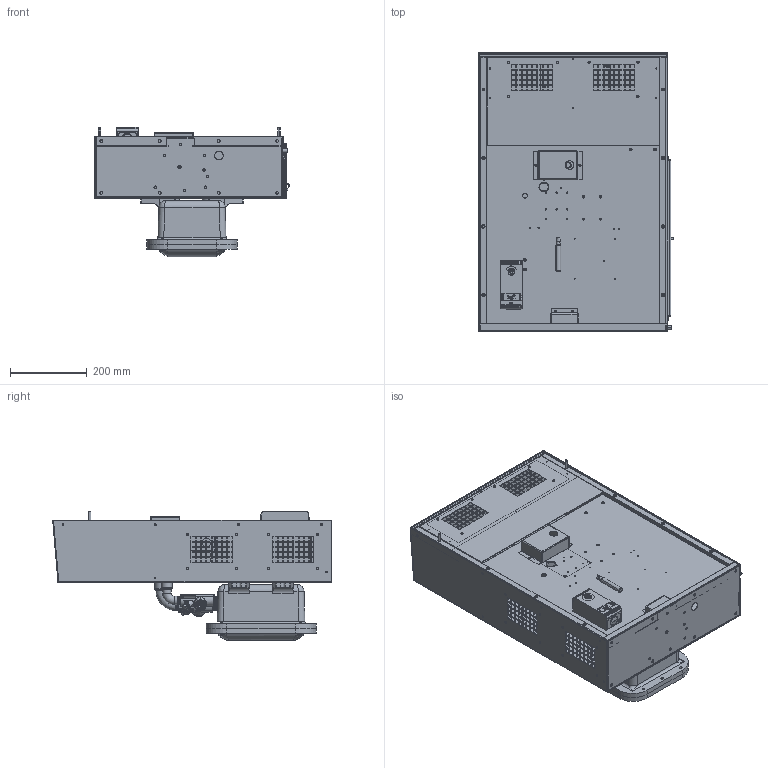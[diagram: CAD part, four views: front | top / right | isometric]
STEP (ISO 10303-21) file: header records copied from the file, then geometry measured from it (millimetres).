
FILE_DESCRIPTION (( 'STEP AP214' ), '1' );
FILE_NAME ('3D MODEL_IQ25-35-4500V 120-230V.STEP', '2021-02-26T17:19:49', ( '' ), ( '' ), 'SwSTEP 2.0', 'SolidWorks 2019', '' );
FILE_SCHEMA (( 'AUTOMOTIVE_DESIGN' ));
Length unit declared in the file: inch
Products named in the file (1): 3D MODEL_IQ25-35-4500V 120-230V
Bounding box: 505.02 x 723.91 x 336.52 mm (x, y, z)
Surface area: 2794392 mm2 (no closed solid volume)
Topology: 0 solids, 156 shells, 1698 faces, 6977 edges, 5279 vertices
Faces by surface type: plane 966, cylinder 567, cone 70, bspline 55, torus 36, sphere 4
Entity records: 116750 total; most frequent: CARTESIAN_POINT 38460, DIRECTION 10995, ORIENTED_EDGE 10415, EDGE_CURVE 6963, VERTEX_POINT 5279, LINE 4141, VECTOR 4141, AXIS2_PLACEMENT_3D 3427
